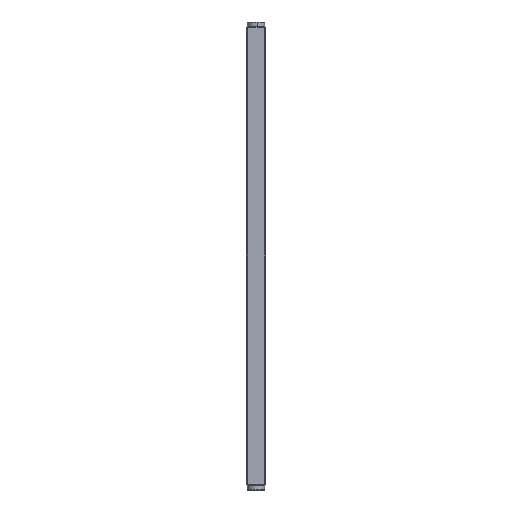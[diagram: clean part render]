
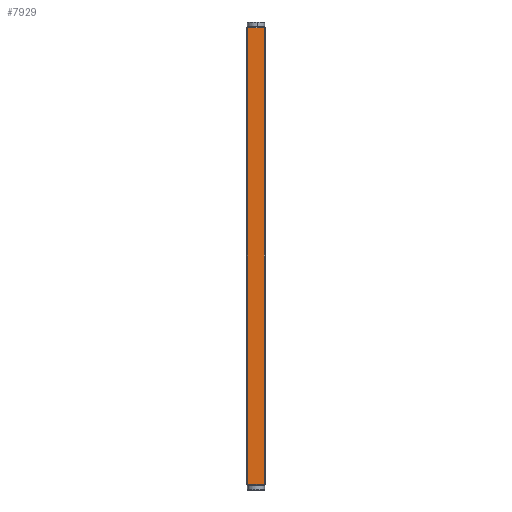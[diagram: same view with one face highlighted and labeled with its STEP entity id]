
A CAD part, left-side view. The second image highlights one B-rep face of the part: STEP entity #7929.
In plain terms, the highlighted planar face has unit normal (-1, 0, 0).
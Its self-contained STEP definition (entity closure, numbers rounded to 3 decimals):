
#618 = LINE ( 'NONE', #6804, #9020 ) ;
#1117 = VERTEX_POINT ( 'NONE', #5857 ) ;
#1362 = DIRECTION ( 'NONE',  ( 0., 0., 1. ) ) ;
#1607 = VECTOR ( 'NONE', #9939, 1000. ) ;
#1733 = VECTOR ( 'NONE', #8160, 1000. ) ;
#1830 = CARTESIAN_POINT ( 'NONE',  ( -4.15, 3.5, 99.5 ) ) ;
#2392 = FACE_OUTER_BOUND ( 'NONE', #4724, .T. ) ;
#2961 = DIRECTION ( 'NONE',  ( 0., 0., -1. ) ) ;
#3179 = EDGE_CURVE ( 'NONE', #1117, #3961, #5606, .T. ) ;
#3419 = CARTESIAN_POINT ( 'NONE',  ( -4.15, 3.5, 100. ) ) ;
#3816 = ORIENTED_EDGE ( 'NONE', *, *, #4862, .T. ) ;
#3888 = EDGE_CURVE ( 'NONE', #3961, #8112, #7418, .T. ) ;
#3939 = ORIENTED_EDGE ( 'NONE', *, *, #4719, .T. ) ;
#3961 = VERTEX_POINT ( 'NONE', #1830 ) ;
#4719 = EDGE_CURVE ( 'NONE', #8112, #10222, #6521, .T. ) ;
#4724 = EDGE_LOOP ( 'NONE', ( #7947, #8951, #3939, #3816 ) ) ;
#4862 = EDGE_CURVE ( 'NONE', #10222, #1117, #618, .T. ) ;
#5236 = VECTOR ( 'NONE', #2961, 1000. ) ;
#5510 = CARTESIAN_POINT ( 'NONE',  ( -4.15, -3.5, -99.5 ) ) ;
#5606 = LINE ( 'NONE', #7657, #1733 ) ;
#5857 = CARTESIAN_POINT ( 'NONE',  ( -4.15, -3.5, 99.5 ) ) ;
#6521 = LINE ( 'NONE', #10254, #1607 ) ;
#6804 = CARTESIAN_POINT ( 'NONE',  ( -4.15, -3.5, 100. ) ) ;
#7418 = LINE ( 'NONE', #3419, #5236 ) ;
#7641 = CARTESIAN_POINT ( 'NONE',  ( -4.15, 3.5, -99.5 ) ) ;
#7657 = CARTESIAN_POINT ( 'NONE',  ( -4.15, 4., 99.5 ) ) ;
#7929 = ADVANCED_FACE ( 'NONE', ( #2392 ), #9197, .F. ) ;
#7947 = ORIENTED_EDGE ( 'NONE', *, *, #3179, .T. ) ;
#8112 = VERTEX_POINT ( 'NONE', #7641 ) ;
#8160 = DIRECTION ( 'NONE',  ( 0., 1., 0. ) ) ;
#8858 = DIRECTION ( 'NONE',  ( 0., 1., 0. ) ) ;
#8901 = DIRECTION ( 'NONE',  ( 1., 0., 0. ) ) ;
#8940 = CARTESIAN_POINT ( 'NONE',  ( -4.15, 4., 100. ) ) ;
#8951 = ORIENTED_EDGE ( 'NONE', *, *, #3888, .T. ) ;
#9020 = VECTOR ( 'NONE', #1362, 1000. ) ;
#9197 = PLANE ( 'NONE',  #10061 ) ;
#9939 = DIRECTION ( 'NONE',  ( 0., -1., 0. ) ) ;
#10061 = AXIS2_PLACEMENT_3D ( 'NONE', #8940, #8901, #8858 ) ;
#10222 = VERTEX_POINT ( 'NONE', #5510 ) ;
#10254 = CARTESIAN_POINT ( 'NONE',  ( -4.15, 4., -99.5 ) ) ;
